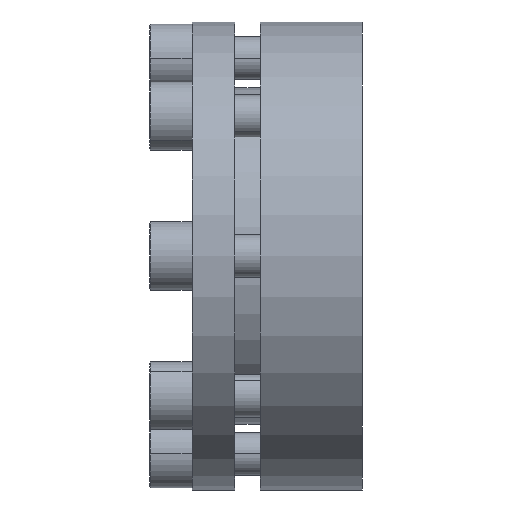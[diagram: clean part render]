
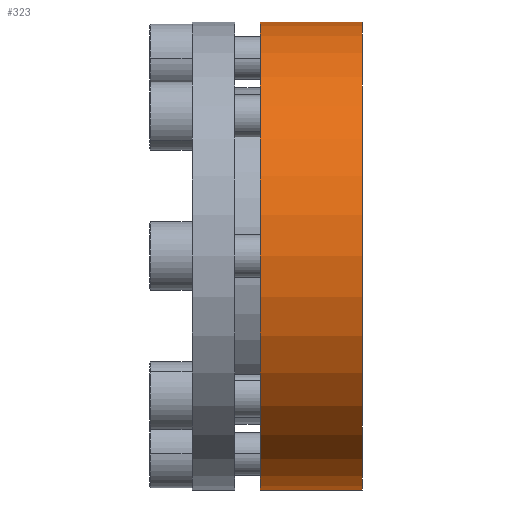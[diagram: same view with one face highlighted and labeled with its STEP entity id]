
A CAD part, front view. The second image highlights one B-rep face of the part: STEP entity #323.
In plain terms, the highlighted cylindrical face has radius 55 mm (diameter 110 mm), a partial arc.
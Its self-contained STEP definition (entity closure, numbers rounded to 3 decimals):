
#244 = EDGE_CURVE ( 'NONE', #313, #320, #2360, .T. ) ;
#287 = EDGE_CURVE ( 'NONE', #314, #313, #2457, .T. ) ;
#313 = VERTEX_POINT ( 'NONE', #2488 ) ;
#314 = VERTEX_POINT ( 'NONE', #2487 ) ;
#316 = EDGE_CURVE ( 'NONE', #314, #317, #2486, .T. ) ;
#317 = VERTEX_POINT ( 'NONE', #2482 ) ;
#320 = VERTEX_POINT ( 'NONE', #2476 ) ;
#323 = ADVANCED_FACE ( 'NONE', ( #2470 ), #2469, .T. ) ;
#324 = EDGE_LOOP ( 'NONE', ( #377, #378, #379, #380 ) ) ;
#377 = ORIENTED_EDGE ( 'NONE', *, *, #316, .F. ) ;
#378 = ORIENTED_EDGE ( 'NONE', *, *, #287, .T. ) ;
#379 = ORIENTED_EDGE ( 'NONE', *, *, #244, .T. ) ;
#380 = ORIENTED_EDGE ( 'NONE', *, *, #381, .F. ) ;
#381 = EDGE_CURVE ( 'NONE', #317, #320, #2571, .T. ) ;
#2357 = DIRECTION ( 'NONE',  ( -1., 0., 0. ) ) ;
#2358 = VECTOR ( 'NONE', #2357, 1000. ) ;
#2359 = CARTESIAN_POINT ( 'NONE',  ( 0., 0., 55. ) ) ;
#2360 = LINE ( 'NONE', #2359, #2358 ) ;
#2453 = DIRECTION ( 'NONE',  ( 0., 0., 1. ) ) ;
#2454 = DIRECTION ( 'NONE',  ( -1., 0., 0. ) ) ;
#2455 = CARTESIAN_POINT ( 'NONE',  ( 40., 0., 0. ) ) ;
#2456 = AXIS2_PLACEMENT_3D ( 'NONE', #2455, #2454, #2453 ) ;
#2457 = CIRCLE ( 'NONE', #2456, 55. ) ;
#2463 = DIRECTION ( 'NONE',  ( 0., 0., 1. ) ) ;
#2464 = DIRECTION ( 'NONE',  ( -1., 0., 0. ) ) ;
#2465 = CARTESIAN_POINT ( 'NONE',  ( 0., 0., 0. ) ) ;
#2466 = AXIS2_PLACEMENT_3D ( 'NONE', #2465, #2464, #2463 ) ;
#2469 = CYLINDRICAL_SURFACE ( 'NONE', #2466, 55. ) ;
#2470 = FACE_OUTER_BOUND ( 'NONE', #324, .T. ) ;
#2476 = CARTESIAN_POINT ( 'NONE',  ( 16., 0., 55. ) ) ;
#2482 = CARTESIAN_POINT ( 'NONE',  ( 16., 0., -55. ) ) ;
#2483 = DIRECTION ( 'NONE',  ( -1., 0., 0. ) ) ;
#2484 = VECTOR ( 'NONE', #2483, 1000. ) ;
#2485 = CARTESIAN_POINT ( 'NONE',  ( 0., 0., -55. ) ) ;
#2486 = LINE ( 'NONE', #2485, #2484 ) ;
#2487 = CARTESIAN_POINT ( 'NONE',  ( 40., 0., -55. ) ) ;
#2488 = CARTESIAN_POINT ( 'NONE',  ( 40., 0., 55. ) ) ;
#2567 = DIRECTION ( 'NONE',  ( 0., 0., 1. ) ) ;
#2568 = DIRECTION ( 'NONE',  ( -1., 0., 0. ) ) ;
#2569 = CARTESIAN_POINT ( 'NONE',  ( 16., 0., 0. ) ) ;
#2570 = AXIS2_PLACEMENT_3D ( 'NONE', #2569, #2568, #2567 ) ;
#2571 = CIRCLE ( 'NONE', #2570, 55. ) ;
